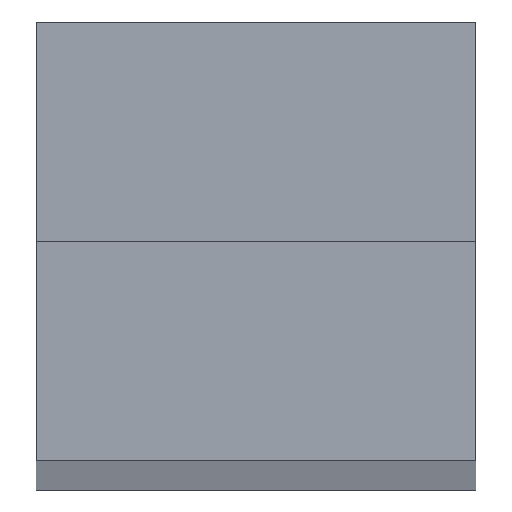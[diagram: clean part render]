
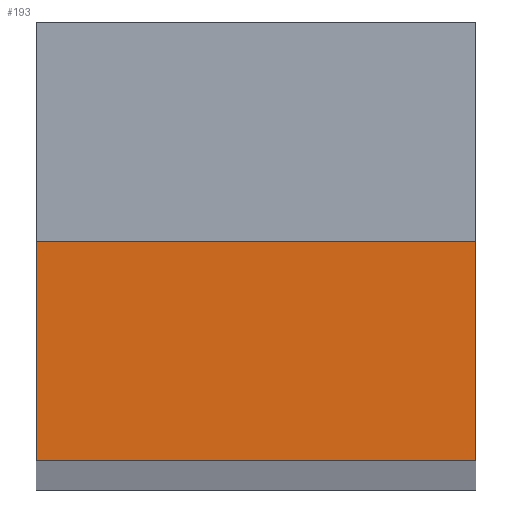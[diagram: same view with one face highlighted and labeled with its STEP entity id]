
A CAD part, top view. The second image highlights one B-rep face of the part: STEP entity #193.
In plain terms, the highlighted planar face has unit normal (0, 0, 1).
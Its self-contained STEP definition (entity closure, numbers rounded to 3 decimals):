
#21 = EDGE_CURVE('',#22,#24,#26,.T.);
#22 = VERTEX_POINT('',#23);
#23 = CARTESIAN_POINT('',(0.,0.,1900.));
#24 = VERTEX_POINT('',#25);
#25 = CARTESIAN_POINT('',(0.,25.,1900.));
#26 = SURFACE_CURVE('',#27,(#31,#43),.PCURVE_S1.);
#27 = LINE('',#28,#29);
#28 = CARTESIAN_POINT('',(0.,0.,1900.));
#29 = VECTOR('',#30,1.);
#30 = DIRECTION('',(0.,1.,0.));
#31 = PCURVE('',#32,#37);
#32 = PLANE('',#33);
#33 = AXIS2_PLACEMENT_3D('',#34,#35,#36);
#34 = CARTESIAN_POINT('',(0.,0.,0.));
#35 = DIRECTION('',(1.,0.,0.));
#36 = DIRECTION('',(0.,0.,1.));
#37 = DEFINITIONAL_REPRESENTATION('',(#38),#42);
#38 = LINE('',#39,#40);
#39 = CARTESIAN_POINT('',(1900.,0.));
#40 = VECTOR('',#41,1.);
#41 = DIRECTION('',(0.,-1.));
#42 = ( GEOMETRIC_REPRESENTATION_CONTEXT(2) 
PARAMETRIC_REPRESENTATION_CONTEXT() REPRESENTATION_CONTEXT('2D SPACE',''
  ) );
#43 = PCURVE('',#44,#49);
#44 = PLANE('',#45);
#45 = AXIS2_PLACEMENT_3D('',#46,#47,#48);
#46 = CARTESIAN_POINT('',(0.,0.,1900.));
#47 = DIRECTION('',(0.,0.,1.));
#48 = DIRECTION('',(1.,0.,0.));
#49 = DEFINITIONAL_REPRESENTATION('',(#50),#54);
#50 = LINE('',#51,#52);
#51 = CARTESIAN_POINT('',(0.,0.));
#52 = VECTOR('',#53,1.);
#53 = DIRECTION('',(0.,1.));
#54 = ( GEOMETRIC_REPRESENTATION_CONTEXT(2) 
PARAMETRIC_REPRESENTATION_CONTEXT() REPRESENTATION_CONTEXT('2D SPACE',''
  ) );
#72 = PLANE('',#73);
#73 = AXIS2_PLACEMENT_3D('',#74,#75,#76);
#74 = CARTESIAN_POINT('',(0.,0.,0.));
#75 = DIRECTION('',(0.,1.,0.));
#76 = DIRECTION('',(0.,0.,1.));
#182 = PLANE('',#183);
#183 = AXIS2_PLACEMENT_3D('',#184,#185,#186);
#184 = CARTESIAN_POINT('',(0.,25.,1875.));
#185 = DIRECTION('',(0.,1.,0.));
#186 = DIRECTION('',(0.,0.,1.));
#193 = ADVANCED_FACE('',(#194),#44,.T.);
#194 = FACE_BOUND('',#195,.T.);
#195 = EDGE_LOOP('',(#196,#197,#220,#248));
#196 = ORIENTED_EDGE('',*,*,#21,.F.);
#197 = ORIENTED_EDGE('',*,*,#198,.T.);
#198 = EDGE_CURVE('',#22,#199,#201,.T.);
#199 = VERTEX_POINT('',#200);
#200 = CARTESIAN_POINT('',(50.,0.,1900.));
#201 = SURFACE_CURVE('',#202,(#206,#213),.PCURVE_S1.);
#202 = LINE('',#203,#204);
#203 = CARTESIAN_POINT('',(0.,0.,1900.));
#204 = VECTOR('',#205,1.);
#205 = DIRECTION('',(1.,0.,0.));
#206 = PCURVE('',#44,#207);
#207 = DEFINITIONAL_REPRESENTATION('',(#208),#212);
#208 = LINE('',#209,#210);
#209 = CARTESIAN_POINT('',(0.,0.));
#210 = VECTOR('',#211,1.);
#211 = DIRECTION('',(1.,0.));
#212 = ( GEOMETRIC_REPRESENTATION_CONTEXT(2) 
PARAMETRIC_REPRESENTATION_CONTEXT() REPRESENTATION_CONTEXT('2D SPACE',''
  ) );
#213 = PCURVE('',#72,#214);
#214 = DEFINITIONAL_REPRESENTATION('',(#215),#219);
#215 = LINE('',#216,#217);
#216 = CARTESIAN_POINT('',(1900.,0.));
#217 = VECTOR('',#218,1.);
#218 = DIRECTION('',(0.,1.));
#219 = ( GEOMETRIC_REPRESENTATION_CONTEXT(2) 
PARAMETRIC_REPRESENTATION_CONTEXT() REPRESENTATION_CONTEXT('2D SPACE',''
  ) );
#220 = ORIENTED_EDGE('',*,*,#221,.T.);
#221 = EDGE_CURVE('',#199,#222,#224,.T.);
#222 = VERTEX_POINT('',#223);
#223 = CARTESIAN_POINT('',(50.,25.,1900.));
#224 = SURFACE_CURVE('',#225,(#229,#236),.PCURVE_S1.);
#225 = LINE('',#226,#227);
#226 = CARTESIAN_POINT('',(50.,0.,1900.));
#227 = VECTOR('',#228,1.);
#228 = DIRECTION('',(0.,1.,0.));
#229 = PCURVE('',#44,#230);
#230 = DEFINITIONAL_REPRESENTATION('',(#231),#235);
#231 = LINE('',#232,#233);
#232 = CARTESIAN_POINT('',(50.,0.));
#233 = VECTOR('',#234,1.);
#234 = DIRECTION('',(0.,1.));
#235 = ( GEOMETRIC_REPRESENTATION_CONTEXT(2) 
PARAMETRIC_REPRESENTATION_CONTEXT() REPRESENTATION_CONTEXT('2D SPACE',''
  ) );
#236 = PCURVE('',#237,#242);
#237 = PLANE('',#238);
#238 = AXIS2_PLACEMENT_3D('',#239,#240,#241);
#239 = CARTESIAN_POINT('',(50.,0.,0.));
#240 = DIRECTION('',(1.,0.,0.));
#241 = DIRECTION('',(0.,0.,1.));
#242 = DEFINITIONAL_REPRESENTATION('',(#243),#247);
#243 = LINE('',#244,#245);
#244 = CARTESIAN_POINT('',(1900.,0.));
#245 = VECTOR('',#246,1.);
#246 = DIRECTION('',(0.,-1.));
#247 = ( GEOMETRIC_REPRESENTATION_CONTEXT(2) 
PARAMETRIC_REPRESENTATION_CONTEXT() REPRESENTATION_CONTEXT('2D SPACE',''
  ) );
#248 = ORIENTED_EDGE('',*,*,#249,.F.);
#249 = EDGE_CURVE('',#24,#222,#250,.T.);
#250 = SURFACE_CURVE('',#251,(#255,#262),.PCURVE_S1.);
#251 = LINE('',#252,#253);
#252 = CARTESIAN_POINT('',(0.,25.,1900.));
#253 = VECTOR('',#254,1.);
#254 = DIRECTION('',(1.,0.,0.));
#255 = PCURVE('',#44,#256);
#256 = DEFINITIONAL_REPRESENTATION('',(#257),#261);
#257 = LINE('',#258,#259);
#258 = CARTESIAN_POINT('',(0.,25.));
#259 = VECTOR('',#260,1.);
#260 = DIRECTION('',(1.,0.));
#261 = ( GEOMETRIC_REPRESENTATION_CONTEXT(2) 
PARAMETRIC_REPRESENTATION_CONTEXT() REPRESENTATION_CONTEXT('2D SPACE',''
  ) );
#262 = PCURVE('',#182,#263);
#263 = DEFINITIONAL_REPRESENTATION('',(#264),#268);
#264 = LINE('',#265,#266);
#265 = CARTESIAN_POINT('',(25.,0.));
#266 = VECTOR('',#267,1.);
#267 = DIRECTION('',(0.,1.));
#268 = ( GEOMETRIC_REPRESENTATION_CONTEXT(2) 
PARAMETRIC_REPRESENTATION_CONTEXT() REPRESENTATION_CONTEXT('2D SPACE',''
  ) );
